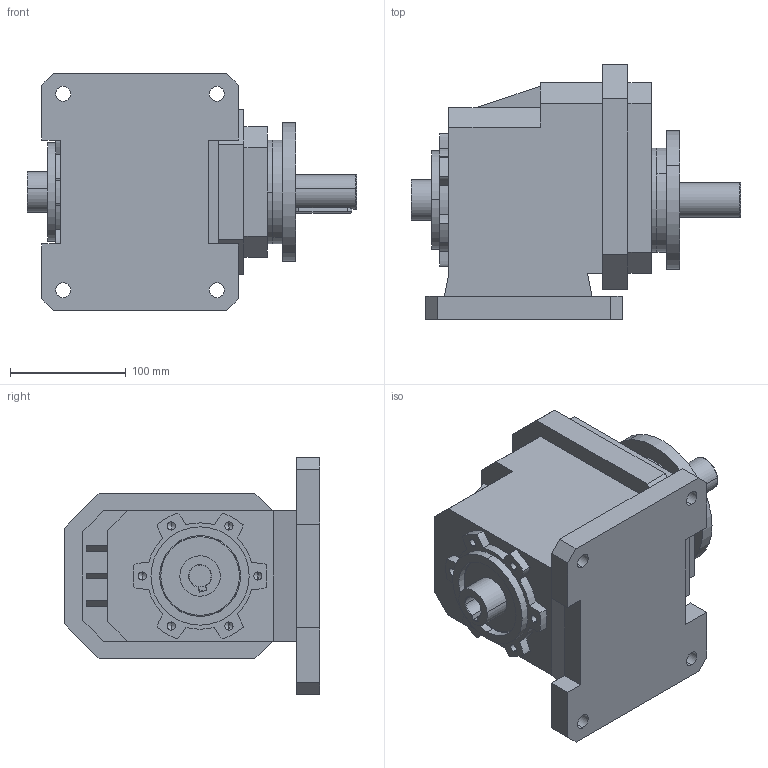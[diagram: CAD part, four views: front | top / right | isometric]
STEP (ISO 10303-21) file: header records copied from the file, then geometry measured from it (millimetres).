
FILE_DESCRIPTION (( 'STEP AP203' ), '1' );
FILE_NAME ('Red HG30 B14 19.STEP', '2019-07-16T07:08:23', ( '' ), ( '' ), 'SwSTEP 2.0', 'SolidWorks 2018', '' );
FILE_SCHEMA (( 'CONFIG_CONTROL_DESIGN' ));
Length unit declared in the file: millimetre
Products named in the file (4): HG30; Arbre 30 19; Bride HG30 B14; Red HG30 B14 19
Assembly tree (3 placements, depth 2):
  Red HG30 B14 19
    HG30
    Arbre 30 19
    Bride HG30 B14
Bounding box: 285 x 221 x 205 mm (x, y, z)
Volume: 4358059.5 mm3; surface area: 349895.6 mm2
Topology: 3 solids, 3 shells, 232 faces, 604 edges, 384 vertices
Faces by surface type: cylinder 105, plane 90, cone 16, bspline 12, torus 9
Entity records: 7637 total; most frequent: CARTESIAN_POINT 1458, DIRECTION 1245, ORIENTED_EDGE 1184, EDGE_CURVE 592, AXIS2_PLACEMENT_3D 459, VERTEX_POINT 384, LINE 327, VECTOR 327
